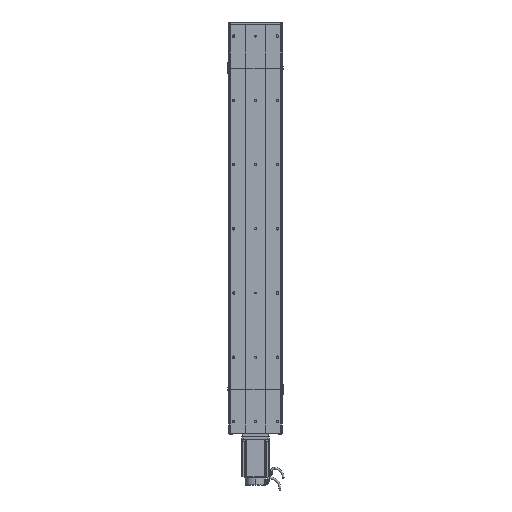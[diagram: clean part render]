
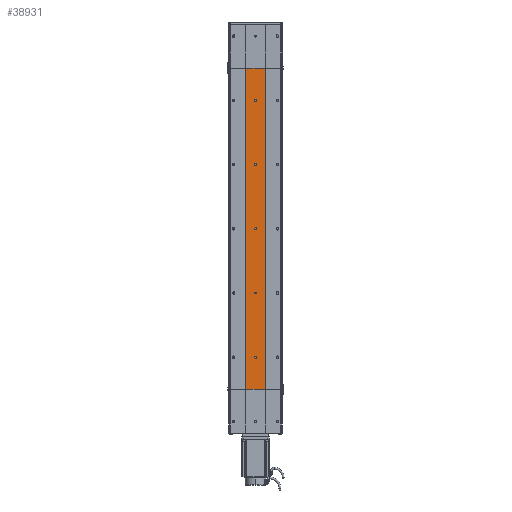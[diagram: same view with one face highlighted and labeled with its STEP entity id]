
A CAD part, front view. The second image highlights one B-rep face of the part: STEP entity #38931.
In plain terms, the highlighted planar face has unit normal (0, -1, 0).
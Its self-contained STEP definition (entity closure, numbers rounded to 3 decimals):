
#1261 = VERTEX_POINT ( 'NONE', #42429 ) ;
#1269 = VERTEX_POINT ( 'NONE', #42482 ) ;
#3908 = VERTEX_POINT ( 'NONE', #43412 ) ;
#3912 = VERTEX_POINT ( 'NONE', #43395 ) ;
#15344 = CARTESIAN_POINT ( 'NONE',  ( 0., -32.5, 903. ) ) ;
#15356 = DIRECTION ( 'NONE',  ( 0., 0., -1. ) ) ;
#15357 = DIRECTION ( 'NONE',  ( 0., -1., 0. ) ) ;
#15358 = AXIS2_PLACEMENT_3D ( 'NONE', #15367, #15357, #15356 ) ;
#15361 = CARTESIAN_POINT ( 'NONE',  ( -30., -32.5, 1000. ) ) ;
#15362 = LINE ( 'NONE', #15361, #15404 ) ;
#15367 = CARTESIAN_POINT ( 'NONE',  ( 0., -32.5, 900. ) ) ;
#15369 = CIRCLE ( 'NONE', #15358, 3. ) ;
#15403 = DIRECTION ( 'NONE',  ( -1., 0., 0. ) ) ;
#15404 = VECTOR ( 'NONE', #15403, 1000. ) ;
#23915 = VERTEX_POINT ( 'NONE', #56154 ) ;
#23926 = VERTEX_POINT ( 'NONE', #56189 ) ;
#23927 = VERTEX_POINT ( 'NONE', #56177 ) ;
#23932 = EDGE_CURVE ( 'NONE', #23946, #23926, #56181, .T. ) ;
#23946 = VERTEX_POINT ( 'NONE', #56211 ) ;
#23953 = VERTEX_POINT ( 'NONE', #56239 ) ;
#23956 = EDGE_CURVE ( 'NONE', #23927, #23967, #56234, .T. ) ;
#23958 = VERTEX_POINT ( 'NONE', #56244 ) ;
#23967 = VERTEX_POINT ( 'NONE', #56286 ) ;
#23988 = EDGE_CURVE ( 'NONE', #23953, #23958, #56324, .T. ) ;
#26554 = EDGE_CURVE ( 'NONE', #1261, #1269, #57223, .T. ) ;
#28835 = CARTESIAN_POINT ( 'NONE',  ( 30., -32.5, 1000. ) ) ;
#30484 = EDGE_CURVE ( 'NONE', #3912, #3908, #57796, .T. ) ;
#34963 = CARTESIAN_POINT ( 'NONE',  ( -30., -32.5, 1000. ) ) ;
#38806 = ORIENTED_EDGE ( 'NONE', *, *, #23988, .F. ) ;
#38817 = ORIENTED_EDGE ( 'NONE', *, *, #38850, .F. ) ;
#38850 = EDGE_CURVE ( 'NONE', #23915, #70056, #67885, .T. ) ;
#38879 = EDGE_CURVE ( 'NONE', #1269, #1261, #67935, .T. ) ;
#38881 = ORIENTED_EDGE ( 'NONE', *, *, #26554, .F. ) ;
#38882 = ORIENTED_EDGE ( 'NONE', *, *, #38922, .F. ) ;
#38885 = ORIENTED_EDGE ( 'NONE', *, *, #30484, .F. ) ;
#38887 = ORIENTED_EDGE ( 'NONE', *, *, #38895, .F. ) ;
#38888 = ORIENTED_EDGE ( 'NONE', *, *, #70073, .F. ) ;
#38889 = EDGE_CURVE ( 'NONE', #23926, #23946, #67924, .T. ) ;
#38890 = ORIENTED_EDGE ( 'NONE', *, *, #71039, .T. ) ;
#38891 = ORIENTED_EDGE ( 'NONE', *, *, #38902, .F. ) ;
#38893 = ORIENTED_EDGE ( 'NONE', *, *, #23932, .F. ) ;
#38895 = EDGE_CURVE ( 'NONE', #23967, #23927, #67919, .T. ) ;
#38897 = ORIENTED_EDGE ( 'NONE', *, *, #23956, .F. ) ;
#38900 = EDGE_LOOP ( 'NONE', ( #38901, #38881 ) ) ;
#38901 = ORIENTED_EDGE ( 'NONE', *, *, #38879, .F. ) ;
#38902 = EDGE_CURVE ( 'NONE', #23958, #23953, #67925, .T. ) ;
#38905 = EDGE_LOOP ( 'NONE', ( #38891, #38806 ) ) ;
#38912 = EDGE_LOOP ( 'NONE', ( #38887, #38897 ) ) ;
#38918 = ORIENTED_EDGE ( 'NONE', *, *, #38889, .F. ) ;
#38922 = EDGE_CURVE ( 'NONE', #3908, #48503, #67907, .T. ) ;
#38926 = EDGE_LOOP ( 'NONE', ( #38890, #38882, #38885, #39009 ) ) ;
#38929 = EDGE_LOOP ( 'NONE', ( #38918, #38893 ) ) ;
#38931 = ADVANCED_FACE ( 'NONE', ( #67906, #67961, #67934, #67962, #67926, #67913 ), #67908, .F. ) ;
#38934 = EDGE_LOOP ( 'NONE', ( #38817, #38888 ) ) ;
#39009 = ORIENTED_EDGE ( 'NONE', *, *, #39011, .T. ) ;
#39011 = EDGE_CURVE ( 'NONE', #3912, #45758, #67972, .T. ) ;
#42429 = CARTESIAN_POINT ( 'NONE',  ( 0., -32.5, 103. ) ) ;
#42482 = CARTESIAN_POINT ( 'NONE',  ( 0., -32.5, 97. ) ) ;
#43395 = CARTESIAN_POINT ( 'NONE',  ( 30., -32.5, 0. ) ) ;
#43412 = CARTESIAN_POINT ( 'NONE',  ( -30., -32.5, 0. ) ) ;
#45758 = VERTEX_POINT ( 'NONE', #28835 ) ;
#48503 = VERTEX_POINT ( 'NONE', #34963 ) ;
#56154 = CARTESIAN_POINT ( 'NONE',  ( 0., -32.5, 897. ) ) ;
#56177 = CARTESIAN_POINT ( 'NONE',  ( 0., -32.5, 503. ) ) ;
#56181 = CIRCLE ( 'NONE', #56231, 3. ) ;
#56189 = CARTESIAN_POINT ( 'NONE',  ( 0., -32.5, 697. ) ) ;
#56195 = CARTESIAN_POINT ( 'NONE',  ( 0., -32.5, 700. ) ) ;
#56211 = CARTESIAN_POINT ( 'NONE',  ( 0., -32.5, 703. ) ) ;
#56229 = DIRECTION ( 'NONE',  ( 0., 0., -1. ) ) ;
#56230 = DIRECTION ( 'NONE',  ( 0., -1., 0. ) ) ;
#56231 = AXIS2_PLACEMENT_3D ( 'NONE', #56195, #56230, #56229 ) ;
#56234 = CIRCLE ( 'NONE', #56294, 3. ) ;
#56239 = CARTESIAN_POINT ( 'NONE',  ( 0., -32.5, 303. ) ) ;
#56244 = CARTESIAN_POINT ( 'NONE',  ( 0., -32.5, 297. ) ) ;
#56286 = CARTESIAN_POINT ( 'NONE',  ( 0., -32.5, 497. ) ) ;
#56291 = DIRECTION ( 'NONE',  ( 0., 0., -1. ) ) ;
#56292 = DIRECTION ( 'NONE',  ( 0., -1., 0. ) ) ;
#56293 = CARTESIAN_POINT ( 'NONE',  ( 0., -32.5, 500. ) ) ;
#56294 = AXIS2_PLACEMENT_3D ( 'NONE', #56293, #56292, #56291 ) ;
#56321 = CARTESIAN_POINT ( 'NONE',  ( 0., -32.5, 300. ) ) ;
#56324 = CIRCLE ( 'NONE', #56348, 3. ) ;
#56344 = DIRECTION ( 'NONE',  ( 0., 0., -1. ) ) ;
#56345 = DIRECTION ( 'NONE',  ( 0., -1., 0. ) ) ;
#56348 = AXIS2_PLACEMENT_3D ( 'NONE', #56321, #56345, #56344 ) ;
#57209 = DIRECTION ( 'NONE',  ( 0., -1., 0. ) ) ;
#57210 = CARTESIAN_POINT ( 'NONE',  ( 0., -32.5, 100. ) ) ;
#57211 = AXIS2_PLACEMENT_3D ( 'NONE', #57210, #57209, #57285 ) ;
#57223 = CIRCLE ( 'NONE', #57211, 3. ) ;
#57285 = DIRECTION ( 'NONE',  ( 0., 0., -1. ) ) ;
#57793 = DIRECTION ( 'NONE',  ( -1., 0., 0. ) ) ;
#57794 = VECTOR ( 'NONE', #57793, 1000. ) ;
#57795 = CARTESIAN_POINT ( 'NONE',  ( -30., -32.5, 0. ) ) ;
#57796 = LINE ( 'NONE', #57795, #57794 ) ;
#67882 = DIRECTION ( 'NONE',  ( 0., 0., -1. ) ) ;
#67885 = CIRCLE ( 'NONE', #67904, 3. ) ;
#67891 = DIRECTION ( 'NONE',  ( 0., -1., 0. ) ) ;
#67892 = CARTESIAN_POINT ( 'NONE',  ( 0., -32.5, 900. ) ) ;
#67904 = AXIS2_PLACEMENT_3D ( 'NONE', #67892, #67891, #67882 ) ;
#67906 = FACE_BOUND ( 'NONE', #38934, .T. ) ;
#67907 = LINE ( 'NONE', #67960, #67959 ) ;
#67908 = PLANE ( 'NONE',  #67957 ) ;
#67909 = DIRECTION ( 'NONE',  ( 0., 0., -1. ) ) ;
#67910 = DIRECTION ( 'NONE',  ( 0., -1., 0. ) ) ;
#67911 = CARTESIAN_POINT ( 'NONE',  ( 0., -32.5, 300. ) ) ;
#67912 = AXIS2_PLACEMENT_3D ( 'NONE', #67911, #67910, #67909 ) ;
#67913 = FACE_OUTER_BOUND ( 'NONE', #38926, .T. ) ;
#67915 = DIRECTION ( 'NONE',  ( 0., 0., -1. ) ) ;
#67916 = DIRECTION ( 'NONE',  ( 0., -1., 0. ) ) ;
#67917 = CARTESIAN_POINT ( 'NONE',  ( 0., -32.5, 500. ) ) ;
#67918 = AXIS2_PLACEMENT_3D ( 'NONE', #67917, #67916, #67915 ) ;
#67919 = CIRCLE ( 'NONE', #67918, 3. ) ;
#67921 = DIRECTION ( 'NONE',  ( 0., 0., -1. ) ) ;
#67922 = DIRECTION ( 'NONE',  ( 0., -1., 0. ) ) ;
#67923 = AXIS2_PLACEMENT_3D ( 'NONE', #67932, #67922, #67921 ) ;
#67924 = CIRCLE ( 'NONE', #67923, 3. ) ;
#67925 = CIRCLE ( 'NONE', #67912, 3. ) ;
#67926 = FACE_BOUND ( 'NONE', #38900, .T. ) ;
#67927 = DIRECTION ( 'NONE',  ( 0., 0., -1. ) ) ;
#67928 = DIRECTION ( 'NONE',  ( 0., -1., 0. ) ) ;
#67929 = CARTESIAN_POINT ( 'NONE',  ( 0., -32.5, 100. ) ) ;
#67930 = AXIS2_PLACEMENT_3D ( 'NONE', #67929, #67928, #67927 ) ;
#67932 = CARTESIAN_POINT ( 'NONE',  ( 0., -32.5, 700. ) ) ;
#67934 = FACE_BOUND ( 'NONE', #38912, .T. ) ;
#67935 = CIRCLE ( 'NONE', #67930, 3. ) ;
#67936 = DIRECTION ( 'NONE',  ( 0., 1., 0. ) ) ;
#67950 = DIRECTION ( 'NONE',  ( 0., 0., 1. ) ) ;
#67957 = AXIS2_PLACEMENT_3D ( 'NONE', #67963, #67936, #67950 ) ;
#67958 = DIRECTION ( 'NONE',  ( 0., 0., 1. ) ) ;
#67959 = VECTOR ( 'NONE', #67958, 1000. ) ;
#67960 = CARTESIAN_POINT ( 'NONE',  ( -30., -32.5, 0. ) ) ;
#67961 = FACE_BOUND ( 'NONE', #38929, .T. ) ;
#67962 = FACE_BOUND ( 'NONE', #38905, .T. ) ;
#67963 = CARTESIAN_POINT ( 'NONE',  ( -30., -32.5, 0. ) ) ;
#67968 = CARTESIAN_POINT ( 'NONE',  ( 30., -32.5, 0. ) ) ;
#67972 = LINE ( 'NONE', #67968, #68029 ) ;
#68028 = DIRECTION ( 'NONE',  ( 0., 0., 1. ) ) ;
#68029 = VECTOR ( 'NONE', #68028, 1000. ) ;
#70056 = VERTEX_POINT ( 'NONE', #15344 ) ;
#70073 = EDGE_CURVE ( 'NONE', #70056, #23915, #15369, .T. ) ;
#71039 = EDGE_CURVE ( 'NONE', #45758, #48503, #15362, .T. ) ;
